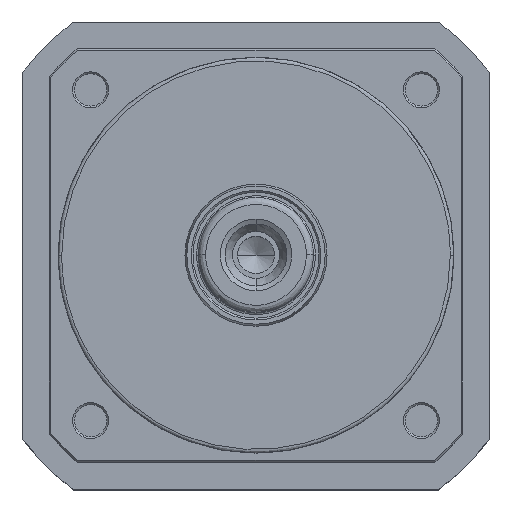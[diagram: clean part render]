
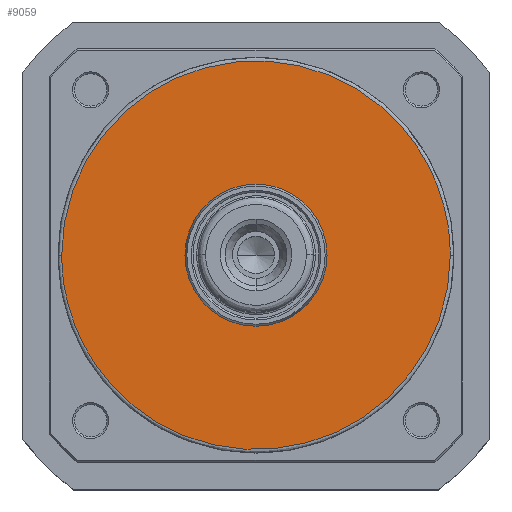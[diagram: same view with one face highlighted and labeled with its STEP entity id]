
A CAD part, top view. The second image highlights one B-rep face of the part: STEP entity #9059.
In plain terms, the highlighted planar face has unit normal (0, 0, 1).
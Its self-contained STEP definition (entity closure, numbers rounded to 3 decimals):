
#147 = VERTEX_POINT ( 'NONE', #7406 ) ;
#370 =( BOUNDED_CURVE ( )  B_SPLINE_CURVE ( 3, ( #4417, #13022, #7703, #10893 ),
 .UNSPECIFIED., .F., .F. ) 
 B_SPLINE_CURVE_WITH_KNOTS ( ( 4, 4 ),
 ( 0., 0.5 ),
 .UNSPECIFIED. ) 
 CURVE ( )  GEOMETRIC_REPRESENTATION_ITEM ( )  RATIONAL_B_SPLINE_CURVE ( ( 1., 0.333, 0.333, 1. ) ) 
 REPRESENTATION_ITEM ( '' )  );
#833 = CARTESIAN_POINT ( 'NONE',  ( 54., 0., 172. ) ) ;
#1087 = FACE_OUTER_BOUND ( 'NONE', #4864, .T. ) ;
#1240 = AXIS2_PLACEMENT_3D ( 'NONE', #5434, #4141, #9671 ) ;
#1541 = VERTEX_POINT ( 'NONE', #11043 ) ;
#1554 = EDGE_CURVE ( 'NONE', #1912, #1541, #13131, .T. ) ;
#1815 =( BOUNDED_CURVE ( )  B_SPLINE_CURVE ( 3, ( #8312, #5175, #10692, #7416 ),
 .UNSPECIFIED., .F., .F. ) 
 B_SPLINE_CURVE_WITH_KNOTS ( ( 4, 4 ),
 ( 0.5, 1. ),
 .UNSPECIFIED. ) 
 CURVE ( )  GEOMETRIC_REPRESENTATION_ITEM ( )  RATIONAL_B_SPLINE_CURVE ( ( 1., 0.333, 0.333, 1. ) ) 
 REPRESENTATION_ITEM ( '' )  );
#1912 = VERTEX_POINT ( 'NONE', #10296 ) ;
#2282 = ORIENTED_EDGE ( 'NONE', *, *, #8296, .T. ) ;
#2362 = DIRECTION ( 'NONE',  ( 0., 0., -1. ) ) ;
#3837 = DIRECTION ( 'NONE',  ( 0., 0., 1. ) ) ;
#4141 = DIRECTION ( 'NONE',  ( 0., 0., -1. ) ) ;
#4417 = CARTESIAN_POINT ( 'NONE',  ( 54., 0., 172. ) ) ;
#4673 = ORIENTED_EDGE ( 'NONE', *, *, #1554, .T. ) ;
#4864 = EDGE_LOOP ( 'NONE', ( #6357, #5358 ) ) ;
#4884 = PLANE ( 'NONE',  #9074 ) ;
#4923 = DIRECTION ( 'NONE',  ( 1., 0., 0. ) ) ;
#5175 = CARTESIAN_POINT ( 'NONE',  ( -54., 108., 172. ) ) ;
#5358 = ORIENTED_EDGE ( 'NONE', *, *, #13304, .F. ) ;
#5434 = CARTESIAN_POINT ( 'NONE',  ( 0., 0., 172. ) ) ;
#5598 = EDGE_CURVE ( 'NONE', #12431, #147, #370, .T. ) ;
#6357 = ORIENTED_EDGE ( 'NONE', *, *, #5598, .F. ) ;
#6961 = FACE_BOUND ( 'NONE', #6981, .T. ) ;
#6981 = EDGE_LOOP ( 'NONE', ( #2282, #4673 ) ) ;
#7178 = AXIS2_PLACEMENT_3D ( 'NONE', #13275, #2362, #7719 ) ;
#7406 = CARTESIAN_POINT ( 'NONE',  ( -54., 0., 172. ) ) ;
#7416 = CARTESIAN_POINT ( 'NONE',  ( 54., 0., 172. ) ) ;
#7703 = CARTESIAN_POINT ( 'NONE',  ( -54., -108., 172. ) ) ;
#7719 = DIRECTION ( 'NONE',  ( 1., 0., 0. ) ) ;
#8296 = EDGE_CURVE ( 'NONE', #1541, #1912, #9012, .T. ) ;
#8312 = CARTESIAN_POINT ( 'NONE',  ( -54., 0., 172. ) ) ;
#9012 = CIRCLE ( 'NONE', #1240, 19.75 ) ;
#9059 = ADVANCED_FACE ( 'NONE', ( #1087, #6961 ), #4884, .T. ) ;
#9074 = AXIS2_PLACEMENT_3D ( 'NONE', #10328, #3837, #4923 ) ;
#9671 = DIRECTION ( 'NONE',  ( 1., 0., 0. ) ) ;
#10296 = CARTESIAN_POINT ( 'NONE',  ( -19.75, 0., 172. ) ) ;
#10328 = CARTESIAN_POINT ( 'NONE',  ( 0., 0., 172. ) ) ;
#10692 = CARTESIAN_POINT ( 'NONE',  ( 54., 108., 172. ) ) ;
#10893 = CARTESIAN_POINT ( 'NONE',  ( -54., 0., 172. ) ) ;
#11043 = CARTESIAN_POINT ( 'NONE',  ( 19.75, 0., 172. ) ) ;
#12431 = VERTEX_POINT ( 'NONE', #833 ) ;
#13022 = CARTESIAN_POINT ( 'NONE',  ( 54., -108., 172. ) ) ;
#13131 = CIRCLE ( 'NONE', #7178, 19.75 ) ;
#13275 = CARTESIAN_POINT ( 'NONE',  ( 0., 0., 172. ) ) ;
#13304 = EDGE_CURVE ( 'NONE', #147, #12431, #1815, .T. ) ;
